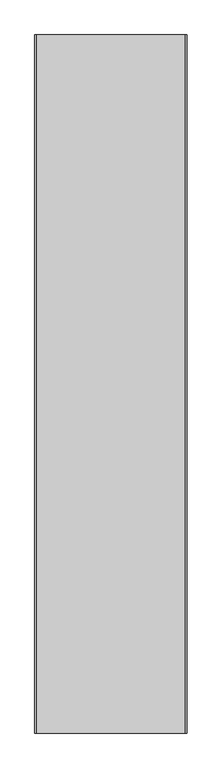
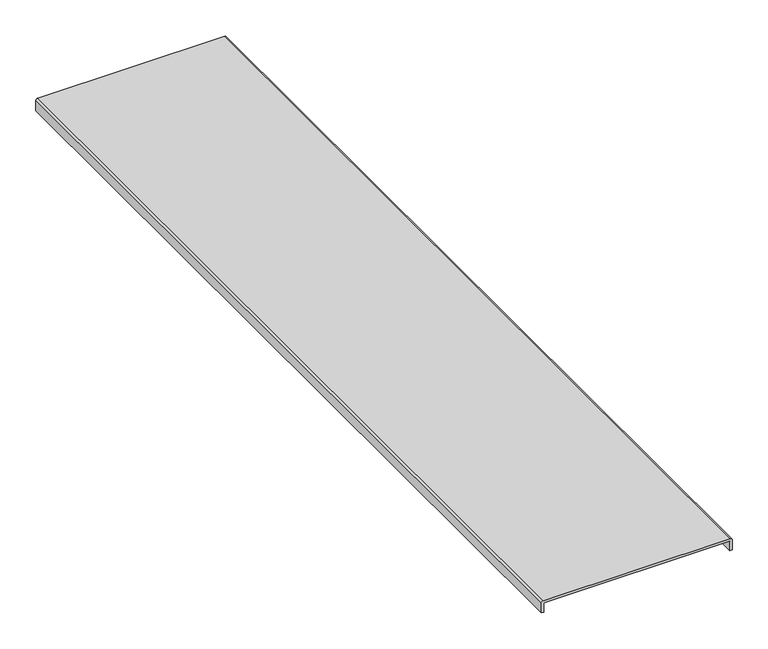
"""IFC4 building model written with IfcOpenShell, lengths in millimetres: proxy geometry, Cable_Tray_Cover_TWT_Basorcanal : Basorcanal TWT 300."""

from ifc_helpers import new_model, si_unit, point, frame, frame_2d, origin, place, context, project, spatial, polyline, circle_curve, trimmed, segment, composite_curve, outline, extrude, source, transform, mapped, element, save


def generic_models_39329576(model_context):
    return source(origin(), model_context, "Body", "SweptSolid", [
        extrude(outline(composite_curve([segment(trimmed(circle_curve(frame_2d((-0.5, -149.5)), 0.5), [point((-0.5, -150.0))], [point((0.0, -149.5))], True, "CARTESIAN"), True, "CONTINUOUS"), segment(polyline([(0.0, -149.5), (0.0, 149.5)]), True, "CONTINUOUS"), segment(trimmed(circle_curve(frame_2d((-0.5, 149.5)), 0.5), [point((0.0, 149.5))], [point((-0.5, 150.0))], True, "CARTESIAN"), True, "CONTINUOUS"), segment(polyline([(-0.5, 150.0), (-16.0, 150.0), (-16.0, 154.0), (0.9268922, 154.0)]), True, "CONTINUOUS"), segment(trimmed(circle_curve(frame_2d((0.9268922, 150.9268922)), 3.0731078), [point((0.9268922, 154.0))], [point((4.0, 150.9268922))], False, "CARTESIAN"), True, "CONTINUOUS"), segment(polyline([(4.0, 150.9268922), (4.0, -150.6770801)]), True, "CONTINUOUS"), segment(trimmed(circle_curve(frame_2d((0.6770801, -150.6770801)), 3.3229199), [point((4.0, -150.6770801))], [point((0.6770801, -154.0))], False, "CARTESIAN"), True, "CONTINUOUS"), segment(polyline([(0.6770801, -154.0), (-16.0, -154.0), (-16.0, -150.0), (-0.5, -150.0)]), True, "CONTINUOUS")], self_intersect=False)), frame((0.0, 0.0, 0.0), z_axis=(0.0, 1.0, 0.0), x_axis=(0.0, 0.0, 1.0)), (0.0, 0.0, 1.0), 1412.5),
    ])


if __name__ == "__main__":
    model = new_model("IFC4")
    model_context = context("Model", 3, world=origin())
    ifc_project = project(units=[si_unit("LENGTHUNIT", "METRE", prefix="MILLI")], contexts=[model_context])
    site = spatial("IfcSite", under=ifc_project)
    building = spatial("IfcBuilding", under=site)
    placement = place(None, origin())
    generic_models_shape = generic_models_39329576(model_context)
    element("IfcBuildingElementProxy", 1, Name="Cable_Tray_Cover_TWT_Basorcanal : Basorcanal TWT 300", ObjectType="Cable_Tray_Cover_TWT_Basorcanal : Basorcanal TWT 300", at=placement, inside=building, context=model_context, shape_type="MappedRepresentation", body=[
        mapped(generic_models_shape, transform((0.0, 0.0, 0.0), x_axis=(1.0, 0.0, 0.0), y_axis=(0.0, 1.0, 0.0), z_axis=(0.0, 0.0, 1.0))),
    ])
    save(model, "model.ifc")
